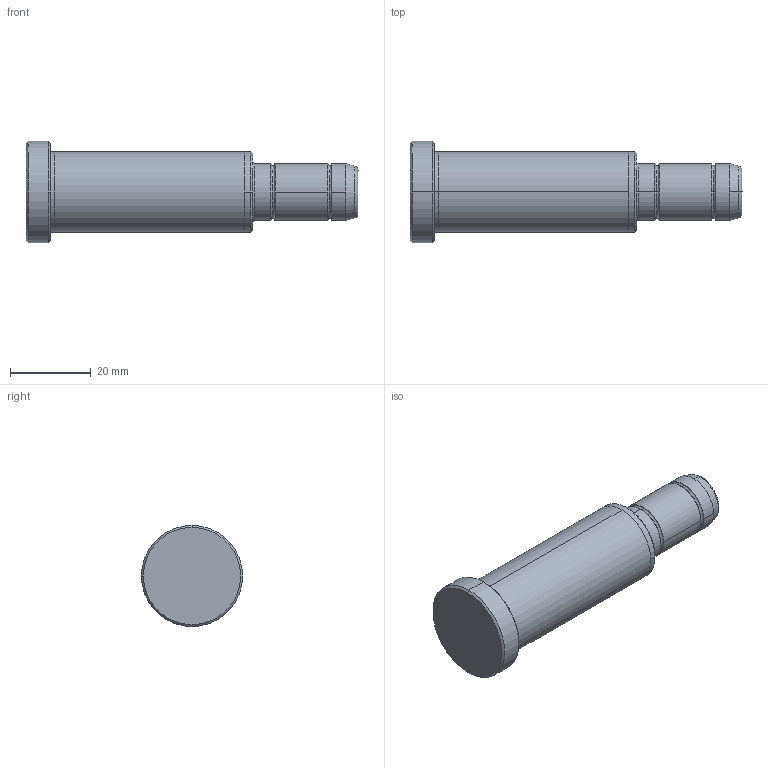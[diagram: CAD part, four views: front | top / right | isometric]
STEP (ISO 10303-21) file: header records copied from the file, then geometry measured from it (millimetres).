
FILE_DESCRIPTION (( 'STEP AP214' ), '1' );
FILE_NAME ('D02_14x56x26.step', '2011-12-25T20:54:32', ( 'Dell' ), ( '' ), 'SwSTEP 2.0', 'SolidWorks 2010', '' );
FILE_SCHEMA (( 'AUTOMOTIVE_DESIGN' ));
Length unit declared in the file: millimetre
Products named in the file (1): D02_14x56x26
Bounding box: 82 x 25 x 25 mm (x, y, z)
Volume: 22571.7 mm3; surface area: 5665.9 mm2
Topology: 1 solids, 1 shells, 42 faces, 92 edges, 56 vertices
Faces by surface type: cylinder 14, bspline 12, cone 10, plane 6
Entity records: 1324 total; most frequent: CARTESIAN_POINT 421, DIRECTION 188, ORIENTED_EDGE 184, EDGE_CURVE 92, AXIS2_PLACEMENT_3D 83, VERTEX_POINT 56, CIRCLE 52, EDGE_LOOP 46
